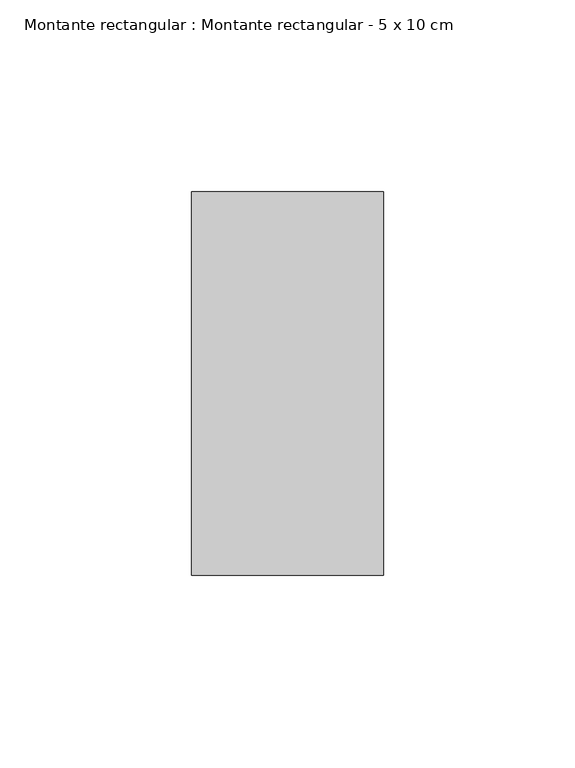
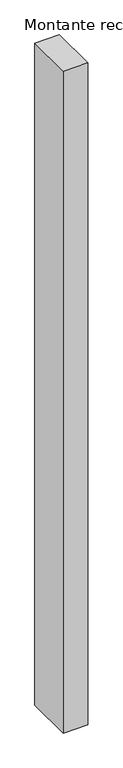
"""IFC4 building model written with IfcOpenShell, lengths in millimetres: member geometry, Montante rectangular : Montante rectangular - 5 x 10 cm."""

from ifc_helpers import new_model, si_unit, frame, origin, place, context, project, spatial, polyline, outline, extrude, source, transform, mapped, element, save


def montante_rectangular_montante_rectangular_5_x_10_cm_d81c8f31(model_context):
    return source(origin(), model_context, "Body", "SweptSolid", [
        extrude(outline(polyline([(-50.0, 50.0), (0.0, 50.0), (0.0, -50.0), (-50.0, -50.0), (-50.0, 50.0)])), frame((0.0, 0.0, -1430.0), z_axis=(0.0, 0.0, 1.0), x_axis=(1.0, 0.0, 0.0)), (0.0, 0.0, 1.0), 1430.0),
    ])


if __name__ == "__main__":
    model = new_model("IFC4")
    model_context = context("Model", 3, world=origin())
    ifc_project = project(units=[si_unit("LENGTHUNIT", "METRE", prefix="MILLI")], contexts=[model_context])
    site = spatial("IfcSite", under=ifc_project)
    building = spatial("IfcBuilding", under=site)
    placement = place(None, origin())
    montante_rectangular_montante_rectangular_5_x_10_cm_shape = montante_rectangular_montante_rectangular_5_x_10_cm_d81c8f31(model_context)
    element("IfcMember", 1, ObjectType="Montante rectangular : Montante rectangular - 5 x 10 cm", at=placement, inside=building, context=model_context, shape_type="MappedRepresentation", body=[
        mapped(montante_rectangular_montante_rectangular_5_x_10_cm_shape, transform((0.0, 0.0, 0.0), x_axis=(1.0, 0.0, 0.0), y_axis=(0.0, 1.0, 0.0), z_axis=(0.0, 0.0, 1.0))),
    ])
    save(model, "model.ifc")
